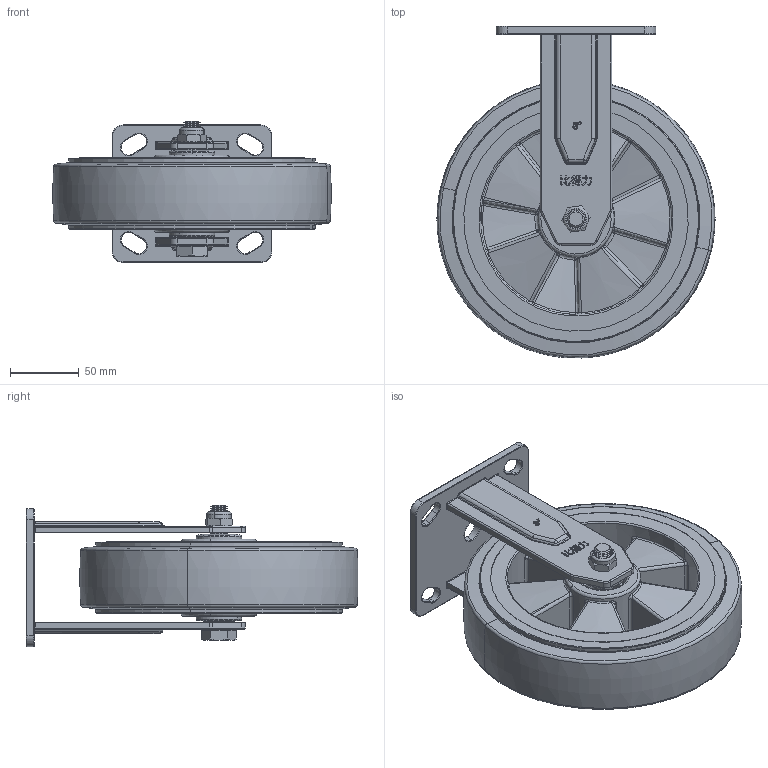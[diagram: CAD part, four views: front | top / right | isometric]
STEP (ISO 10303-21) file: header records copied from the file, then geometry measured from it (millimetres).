
FILE_DESCRIPTION (( 'STEP AP203' ), '1' );
FILE_NAME ('8渡笭婥倰隅傀謫.STEP', '2023-03-06T09:07:25', ( 'amidn' ), ( '' ), 'SwSTEP 2.0', 'SolidWorks 2018', '' );
FILE_SCHEMA (( 'CONFIG_CONTROL_DESIGN' ));
Length unit declared in the file: millimetre
Products named in the file (8): 8渡笭婥倰隅砃謫.STEP; 8______________.STEP; 8渡笭婥倰隅傀謫; prevailing torque nut thin insert_din_DIN EN ISO 10511 - M12 - S.STEP; high strength hex head bolt_din_DIN 6914 - M12 x 90 x 23-S.STEP; 8________.STEP; 8____________.STEP; 8________ ____.STEP
Assembly tree (8 placements, depth 3):
  8渡笭婥倰隅傀謫
    8渡笭婥倰隅砃謫.STEP
      8________.STEP
      8______________.STEP
      8________ ____.STEP
      8____________.STEP  x2
      high strength hex head bolt_din_DIN 6914 - M12 x 90 x 23-S.STEP
      prevailing torque nut thin insert_din_DIN EN ISO 10511 - M12 - S.STEP
Bounding box: 201.89 x 240.87 x 102.5 mm (x, y, z)
Volume: 1230083.3 mm3; surface area: 220557.5 mm2
Topology: 7 solids, 7 shells, 922 faces, 2183 edges, 1257 vertices
Faces by surface type: cylinder 236, plane 180, bspline 170, torus 136, cone 134, sphere 66
Entity records: 37498 total; most frequent: CARTESIAN_POINT 17047, ORIENTED_EDGE 4178, DIRECTION 4006, EDGE_CURVE 2089, AXIS2_PLACEMENT_3D 1628, VERTEX_POINT 1227, EDGE_LOOP 958, FACE_OUTER_BOUND 905
